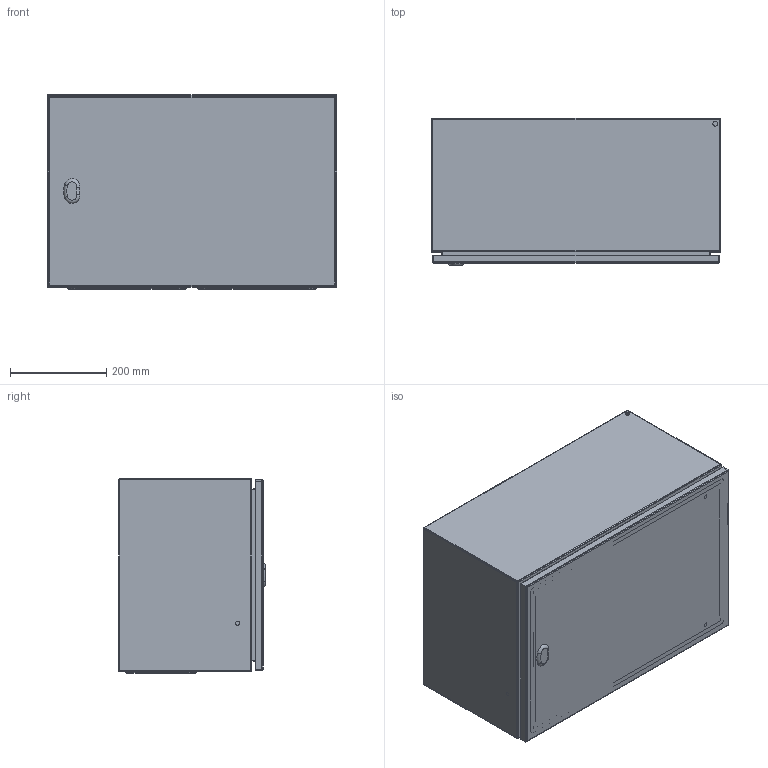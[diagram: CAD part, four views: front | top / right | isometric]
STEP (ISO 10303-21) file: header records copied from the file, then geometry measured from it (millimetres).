
FILE_DESCRIPTION(/* description */ ('STEP AP214'),/* implementation_level */ '2;1');
FILE_NAME(/* name */ 'EC060430-LOD400',/* time_stamp */ '2025-07-31T13:51:36+02:00',/* author */ ('License CC BY-ND 4.0'),/* organization */ ('CADENAS'),/* preprocessor_version */ 'ST-DEVELOPER v19.3',/* originating_system */ 'PARTsolutions',/* authorisation */ ' ');
FILE_SCHEMA (('AUTOMOTIVE_DESIGN {1 0 10303 214 3 1 1}'));
Length unit declared in the file: millimetre
Products named in the file (5): EC060430-LOD400; EC060430-LOD400_cabinet; EC060430-LOD400_door; EC060430-LOD400_bottom_plate; EC060430-LOD400_inner_plate
Assembly tree (5 placements, depth 2):
  EC060430-LOD400
    EC060430-LOD400_cabinet
    EC060430-LOD400_door
    EC060430-LOD400_bottom_plate  x2
    EC060430-LOD400_inner_plate
Bounding box: 600 x 305 x 404 mm (x, y, z)
Volume: 2263836.1 mm3; surface area: 2765805.1 mm2
Topology: 5 solids, 5 shells, 630 faces, 1458 edges, 928 vertices
Faces by surface type: cylinder 246, plane 230, cone 78, torus 76
Full cylindrical faces by diameter (mm): 1 x64, 4.5 x40, 5 x4, 5.5 x4, 6 x4, 7 x4, 8 x12, 10 x10, 14 x4
Entity records: 12959 total; most frequent: DIRECTION 2376, CARTESIAN_POINT 2082, ORIENTED_EDGE 1848, AXIS2_PLACEMENT_3D 980, EDGE_CURVE 924, EDGE_LOOP 830, FACE_BOUND 830, VERTEX_POINT 686
